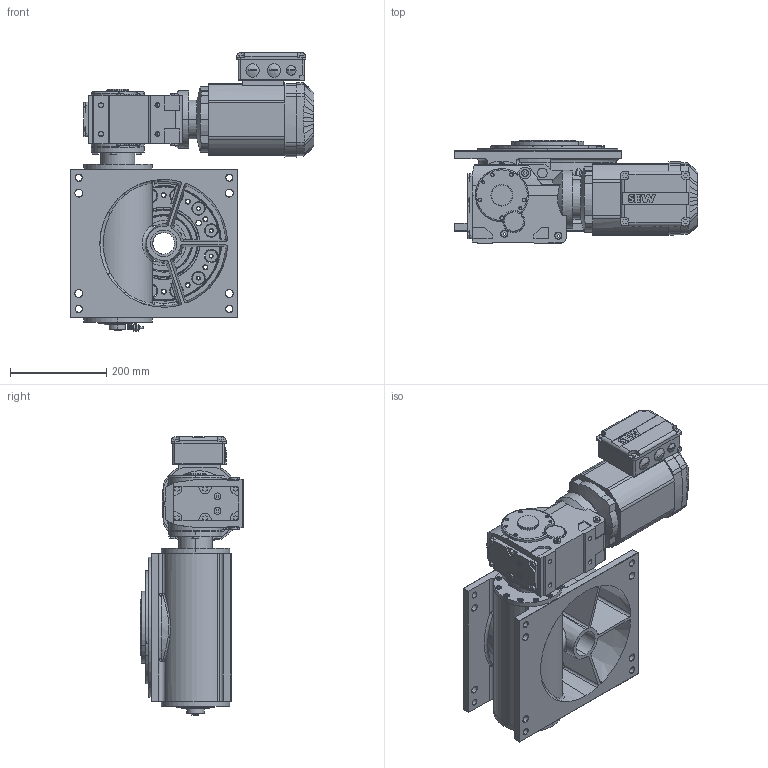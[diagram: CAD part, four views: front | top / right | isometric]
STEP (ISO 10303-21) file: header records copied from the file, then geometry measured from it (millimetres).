
FILE_DESCRIPTION (( 'STEP AP214' ), '1' );
FILE_NAME ('M235_SEW_KA37DRE80M4_D1.STEP', '2020-06-17T04:54:37', ( '' ), ( '' ), 'SwSTEP 2.0', 'SolidWorks 2020', '' );
FILE_SCHEMA (( 'AUTOMOTIVE_DESIGN' ));
Length unit declared in the file: millimetre
Products named in the file (1): M235_SEW_KA37DRE80M4_D1
Bounding box: 505.5 x 214 x 577.22 mm (x, y, z)
Surface area: 1151627 mm2 (no closed solid volume)
Topology: 0 solids, 89 shells, 1751 faces, 5193 edges, 3446 vertices
Faces by surface type: plane 663, cylinder 575, cone 274, bspline 147, torus 76, sphere 16
Entity records: 88266 total; most frequent: CARTESIAN_POINT 23122, DIRECTION 9678, ORIENTED_EDGE 8866, EDGE_CURVE 5149, AXIS2_PLACEMENT_3D 3544, VERTEX_POINT 3446, LINE 2590, VECTOR 2590
